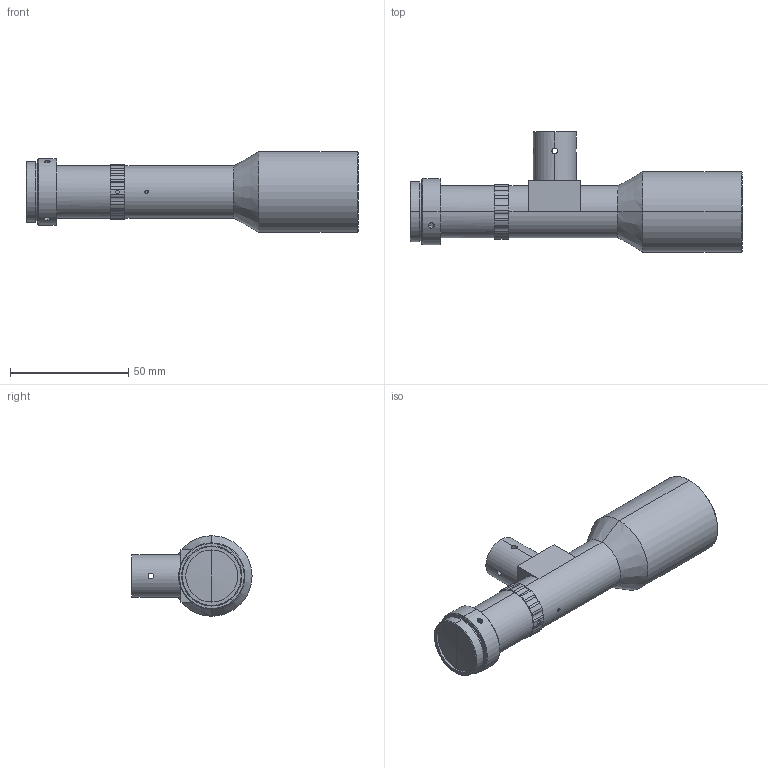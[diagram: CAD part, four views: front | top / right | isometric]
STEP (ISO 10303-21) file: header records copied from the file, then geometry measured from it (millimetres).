
FILE_DESCRIPTION (( 'STEP AP203' ), '1' );
FILE_NAME ('WWH05-110CT-G.STEP', '2019-12-03T02:58:22', ( 'Windows 蚚誧' ), ( '' ), 'SwSTEP 2.0', 'SolidWorks 2017', '' );
FILE_SCHEMA (( 'CONFIG_CONTROL_DESIGN' ));
Length unit declared in the file: millimetre
Products named in the file (1): WWH05-110CT-G
Bounding box: 140.16 x 50.7 x 34 mm (x, y, z)
Volume: 85094.2 mm3; surface area: 16743.6 mm2
Topology: 1 solids, 1 shells, 184 faces, 447 edges, 284 vertices
Faces by surface type: cylinder 119, plane 33, cone 32
Entity records: 6231 total; most frequent: CARTESIAN_POINT 1760, DIRECTION 974, ORIENTED_EDGE 886, EDGE_CURVE 443, AXIS2_PLACEMENT_3D 412, VERTEX_POINT 284, CIRCLE 227, EDGE_LOOP 215
